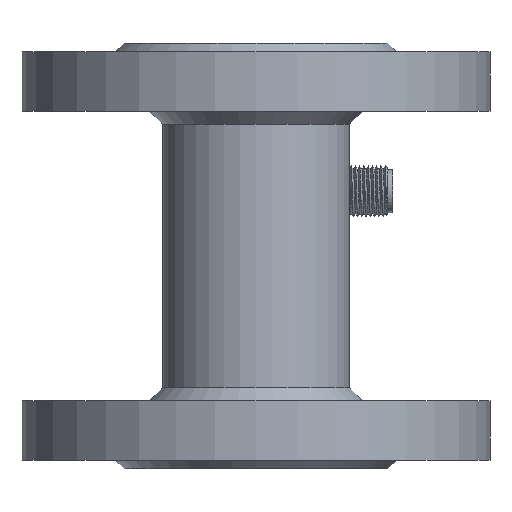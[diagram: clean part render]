
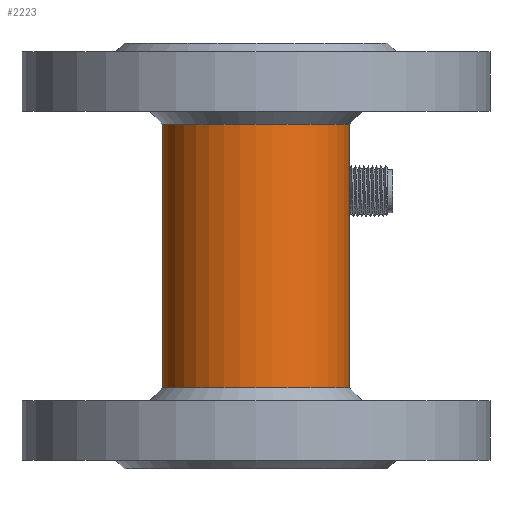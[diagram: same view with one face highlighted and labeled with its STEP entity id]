
A CAD part, front view. The second image highlights one B-rep face of the part: STEP entity #2223.
In plain terms, the highlighted cylindrical face has radius 22 mm (diameter 44 mm), a full revolution.
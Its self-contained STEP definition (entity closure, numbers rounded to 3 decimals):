
#2223=ADVANCED_FACE('',(#3292,#3293,#3294),#2691,.T.);
#2691=CYLINDRICAL_SURFACE('',#8916,22.);
#2855=CIRCLE('',#8914,22.);
#2856=CIRCLE('',#8915,22.);
#3292=FACE_BOUND('',#3525,.T.);
#3293=FACE_BOUND('',#3526,.T.);
#3294=FACE_BOUND('',#3527,.T.);
#3525=EDGE_LOOP('',(#4320,#4321,#4322,#4323,#4324,#4325,#4326,#4327,#4328,
#4329,#4330,#4331,#4332,#4333,#4334,#4335));
#3526=EDGE_LOOP('',(#4336));
#3527=EDGE_LOOP('',(#4337));
#4124=B_SPLINE_CURVE_WITH_KNOTS('',3,(#11924,#11925,#11926,#11927,#11928,
#11929),.UNSPECIFIED.,.F.,.F.,(4,2,4),(0.,0.5,1.),.UNSPECIFIED.);
#4125=B_SPLINE_CURVE_WITH_KNOTS('',3,(#11931,#11932,#11933,#11934),
 .UNSPECIFIED.,.F.,.F.,(4,4),(0.,1.),.UNSPECIFIED.);
#4126=B_SPLINE_CURVE_WITH_KNOTS('',3,(#11938,#11939,#11940,#11941,#11942,
#11943),.UNSPECIFIED.,.F.,.F.,(4,2,4),(0.,0.5,1.),.UNSPECIFIED.);
#4127=B_SPLINE_CURVE_WITH_KNOTS('',3,(#11947,#11948,#11949,#11950,#11951,
#11952),.UNSPECIFIED.,.F.,.F.,(4,2,4),(0.,0.5,1.),.UNSPECIFIED.);
#4128=B_SPLINE_CURVE_WITH_KNOTS('',3,(#11954,#11955,#11956,#11957),
 .UNSPECIFIED.,.F.,.F.,(4,4),(0.,1.),.UNSPECIFIED.);
#4129=B_SPLINE_CURVE_WITH_KNOTS('',3,(#11961,#11962,#11963,#11964),
 .UNSPECIFIED.,.F.,.F.,(4,4),(0.,1.),.UNSPECIFIED.);
#4130=B_SPLINE_CURVE_WITH_KNOTS('',3,(#11966,#11967,#11968,#11969),
 .UNSPECIFIED.,.F.,.F.,(4,4),(0.,1.),.UNSPECIFIED.);
#4131=B_SPLINE_CURVE_WITH_KNOTS('',3,(#11971,#11972,#11973,#11974),
 .UNSPECIFIED.,.F.,.F.,(4,4),(0.,1.),.UNSPECIFIED.);
#4132=B_SPLINE_CURVE_WITH_KNOTS('',3,(#11976,#11977,#11978,#11979),
 .UNSPECIFIED.,.F.,.F.,(4,4),(0.,1.),.UNSPECIFIED.);
#4133=B_SPLINE_CURVE_WITH_KNOTS('',3,(#11981,#11982,#11983,#11984),
 .UNSPECIFIED.,.F.,.F.,(4,4),(0.,1.),.UNSPECIFIED.);
#4134=B_SPLINE_CURVE_WITH_KNOTS('',3,(#11986,#11987,#11988,#11989),
 .UNSPECIFIED.,.F.,.F.,(4,4),(0.,1.),.UNSPECIFIED.);
#4135=B_SPLINE_CURVE_WITH_KNOTS('',3,(#11991,#11992,#11993,#11994),
 .UNSPECIFIED.,.F.,.F.,(4,4),(0.,1.),.UNSPECIFIED.);
#4320=ORIENTED_EDGE('',*,*,#7082,.T.);
#4321=ORIENTED_EDGE('',*,*,#7083,.T.);
#4322=ORIENTED_EDGE('',*,*,#7084,.T.);
#4323=ORIENTED_EDGE('',*,*,#7085,.T.);
#4324=ORIENTED_EDGE('',*,*,#7086,.F.);
#4325=ORIENTED_EDGE('',*,*,#7087,.T.);
#4326=ORIENTED_EDGE('',*,*,#7088,.T.);
#4327=ORIENTED_EDGE('',*,*,#7089,.T.);
#4328=ORIENTED_EDGE('',*,*,#7090,.T.);
#4329=ORIENTED_EDGE('',*,*,#7091,.F.);
#4330=ORIENTED_EDGE('',*,*,#7092,.F.);
#4331=ORIENTED_EDGE('',*,*,#7093,.F.);
#4332=ORIENTED_EDGE('',*,*,#7094,.F.);
#4333=ORIENTED_EDGE('',*,*,#7095,.F.);
#4334=ORIENTED_EDGE('',*,*,#7096,.F.);
#4335=ORIENTED_EDGE('',*,*,#7097,.F.);
#4336=ORIENTED_EDGE('',*,*,#7098,.T.);
#4337=ORIENTED_EDGE('',*,*,#7099,.T.);
#6394=VERTEX_POINT('',#11922);
#6395=VERTEX_POINT('',#11923);
#6396=VERTEX_POINT('',#11930);
#6397=VERTEX_POINT('',#11935);
#6398=VERTEX_POINT('',#11937);
#6399=VERTEX_POINT('',#11944);
#6400=VERTEX_POINT('',#11946);
#6401=VERTEX_POINT('',#11953);
#6402=VERTEX_POINT('',#11958);
#6403=VERTEX_POINT('',#11960);
#6404=VERTEX_POINT('',#11965);
#6405=VERTEX_POINT('',#11970);
#6406=VERTEX_POINT('',#11975);
#6407=VERTEX_POINT('',#11980);
#6408=VERTEX_POINT('',#11985);
#6409=VERTEX_POINT('',#11990);
#6410=VERTEX_POINT('',#11996);
#6411=VERTEX_POINT('',#11998);
#7082=EDGE_CURVE('',#6394,#6395,#8119,.T.);
#7083=EDGE_CURVE('',#6395,#6396,#4124,.T.);
#7084=EDGE_CURVE('',#6396,#6397,#4125,.T.);
#7085=EDGE_CURVE('',#6397,#6398,#8120,.T.);
#7086=EDGE_CURVE('',#6399,#6398,#4126,.T.);
#7087=EDGE_CURVE('',#6399,#6400,#8121,.T.);
#7088=EDGE_CURVE('',#6400,#6401,#4127,.T.);
#7089=EDGE_CURVE('',#6401,#6402,#4128,.T.);
#7090=EDGE_CURVE('',#6402,#6403,#8122,.T.);
#7091=EDGE_CURVE('',#6404,#6403,#4129,.T.);
#7092=EDGE_CURVE('',#6405,#6404,#4130,.T.);
#7093=EDGE_CURVE('',#6406,#6405,#4131,.T.);
#7094=EDGE_CURVE('',#6407,#6406,#4132,.T.);
#7095=EDGE_CURVE('',#6408,#6407,#4133,.T.);
#7096=EDGE_CURVE('',#6409,#6408,#4134,.T.);
#7097=EDGE_CURVE('',#6394,#6409,#4135,.T.);
#7098=EDGE_CURVE('',#6410,#6410,#2855,.T.);
#7099=EDGE_CURVE('',#6411,#6411,#2856,.T.);
#8119=LINE('',#11921,#8516);
#8120=LINE('',#11936,#8517);
#8121=LINE('',#11945,#8518);
#8122=LINE('',#11959,#8519);
#8516=VECTOR('',#9785,1.);
#8517=VECTOR('',#9786,1.);
#8518=VECTOR('',#9787,1.);
#8519=VECTOR('',#9788,1.);
#8914=AXIS2_PLACEMENT_3D('',#11995,#9789,#9790);
#8915=AXIS2_PLACEMENT_3D('',#11997,#9791,#9792);
#8916=AXIS2_PLACEMENT_3D('',#11999,#9793,#9794);
#9785=DIRECTION('',(0.,0.,-1.));
#9786=DIRECTION('',(0.,0.,1.));
#9787=DIRECTION('',(0.,0.,1.));
#9788=DIRECTION('',(0.,0.,-1.));
#9789=DIRECTION('',(0.,0.,1.));
#9790=DIRECTION('',(-1.,0.,0.));
#9791=DIRECTION('',(0.,0.,-1.));
#9792=DIRECTION('',(1.,0.,0.));
#9793=DIRECTION('',(0.,0.,-1.));
#9794=DIRECTION('',(-1.,0.,0.));
#11921=CARTESIAN_POINT('',(-6.557,21.,119.));
#11922=CARTESIAN_POINT('',(-6.557,21.,-22.405));
#11923=CARTESIAN_POINT('',(-6.557,21.,-28.106));
#11924=CARTESIAN_POINT('',(-6.557,21.,-28.106));
#11925=CARTESIAN_POINT('',(-5.697,21.269,-28.97));
#11926=CARTESIAN_POINT('',(-4.722,21.517,-29.685));
#11927=CARTESIAN_POINT('',(-2.476,21.89,-30.722));
#11928=CARTESIAN_POINT('',(-1.253,22.,-31.009));
#11929=CARTESIAN_POINT('',(0.001,22.,-31.007));
#11930=CARTESIAN_POINT('',(0.001,22.,-31.007));
#11931=CARTESIAN_POINT('',(0.001,22.,-31.007));
#11932=CARTESIAN_POINT('',(2.507,22.,-31.004));
#11933=CARTESIAN_POINT('',(4.84,21.536,-29.82));
#11934=CARTESIAN_POINT('',(6.557,21.,-28.086));
#11935=CARTESIAN_POINT('',(6.557,21.,-28.086));
#11936=CARTESIAN_POINT('',(6.557,21.,119.));
#11937=CARTESIAN_POINT('',(6.557,21.,-22.36));
#11938=CARTESIAN_POINT('',(6.557,21.,-13.24));
#11939=CARTESIAN_POINT('',(7.267,20.778,-14.651));
#11940=CARTESIAN_POINT('',(7.622,20.638,-16.225));
#11941=CARTESIAN_POINT('',(7.622,20.637,-19.371));
#11942=CARTESIAN_POINT('',(7.267,20.778,-20.949));
#11943=CARTESIAN_POINT('',(6.557,21.,-22.36));
#11944=CARTESIAN_POINT('',(6.557,21.,-13.24));
#11945=CARTESIAN_POINT('',(6.557,21.,119.));
#11946=CARTESIAN_POINT('',(6.557,21.,-7.514));
#11947=CARTESIAN_POINT('',(6.557,21.,-7.514));
#11948=CARTESIAN_POINT('',(5.699,21.268,-6.647));
#11949=CARTESIAN_POINT('',(4.724,21.517,-5.928));
#11950=CARTESIAN_POINT('',(2.479,21.889,-4.885));
#11951=CARTESIAN_POINT('',(1.256,22.,-4.595));
#11952=CARTESIAN_POINT('',(0.001,22.,-4.593));
#11953=CARTESIAN_POINT('',(0.001,22.,-4.593));
#11954=CARTESIAN_POINT('',(0.001,22.,-4.593));
#11955=CARTESIAN_POINT('',(-2.503,22.,-4.59));
#11956=CARTESIAN_POINT('',(-4.837,21.537,-5.766));
#11957=CARTESIAN_POINT('',(-6.557,21.,-7.494));
#11958=CARTESIAN_POINT('',(-6.557,21.,-7.494));
#11959=CARTESIAN_POINT('',(-6.557,21.,119.));
#11960=CARTESIAN_POINT('',(-6.557,21.,-13.195));
#11961=CARTESIAN_POINT('',(-6.589,20.99,-13.258));
#11962=CARTESIAN_POINT('',(-6.579,20.993,-13.237));
#11963=CARTESIAN_POINT('',(-6.568,20.997,-13.216));
#11964=CARTESIAN_POINT('',(-6.557,21.,-13.195));
#11965=CARTESIAN_POINT('',(-6.589,20.99,-13.258));
#11966=CARTESIAN_POINT('',(-6.609,20.984,-13.269));
#11967=CARTESIAN_POINT('',(-6.602,20.986,-13.265));
#11968=CARTESIAN_POINT('',(-6.596,20.988,-13.262));
#11969=CARTESIAN_POINT('',(-6.589,20.99,-13.258));
#11970=CARTESIAN_POINT('',(-6.609,20.984,-13.269));
#11971=CARTESIAN_POINT('',(-7.542,20.667,-15.088));
#11972=CARTESIAN_POINT('',(-7.308,20.752,-14.438));
#11973=CARTESIAN_POINT('',(-6.996,20.862,-13.833));
#11974=CARTESIAN_POINT('',(-6.609,20.984,-13.269));
#11975=CARTESIAN_POINT('',(-7.542,20.667,-15.088));
#11976=CARTESIAN_POINT('',(-7.791,20.574,-19.681));
#11977=CARTESIAN_POINT('',(-7.981,20.502,-18.145));
#11978=CARTESIAN_POINT('',(-7.899,20.537,-16.589));
#11979=CARTESIAN_POINT('',(-7.542,20.667,-15.088));
#11980=CARTESIAN_POINT('',(-7.791,20.574,-19.681));
#11981=CARTESIAN_POINT('',(-7.13,20.813,-21.458));
#11982=CARTESIAN_POINT('',(-7.418,20.714,-20.899));
#11983=CARTESIAN_POINT('',(-7.642,20.631,-20.298));
#11984=CARTESIAN_POINT('',(-7.791,20.574,-19.681));
#11985=CARTESIAN_POINT('',(-7.13,20.813,-21.458));
#11986=CARTESIAN_POINT('',(-6.934,20.879,-21.57));
#11987=CARTESIAN_POINT('',(-7.,20.857,-21.533));
#11988=CARTESIAN_POINT('',(-7.065,20.835,-21.496));
#11989=CARTESIAN_POINT('',(-7.13,20.813,-21.458));
#11990=CARTESIAN_POINT('',(-6.934,20.879,-21.57));
#11991=CARTESIAN_POINT('',(-6.557,21.,-22.405));
#11992=CARTESIAN_POINT('',(-6.697,20.956,-22.131));
#11993=CARTESIAN_POINT('',(-6.822,20.916,-21.853));
#11994=CARTESIAN_POINT('',(-6.934,20.879,-21.57));
#11995=CARTESIAN_POINT('',(0.,0.,-64.));
#11996=CARTESIAN_POINT('',(-22.,0.,-64.));
#11997=CARTESIAN_POINT('',(0.,0.,-2.));
#11998=CARTESIAN_POINT('',(22.,0.,-2.));
#11999=CARTESIAN_POINT('',(0.,0.,119.));
